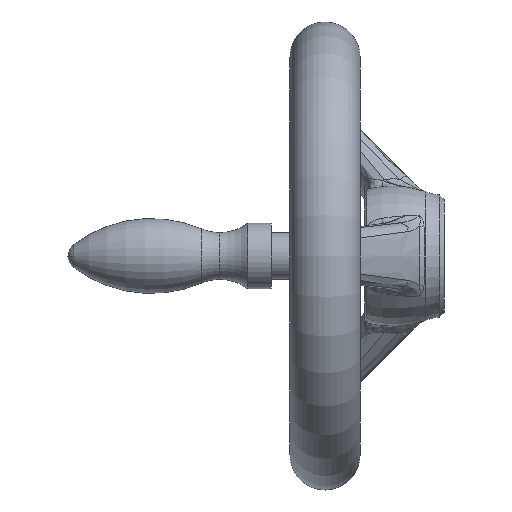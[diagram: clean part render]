
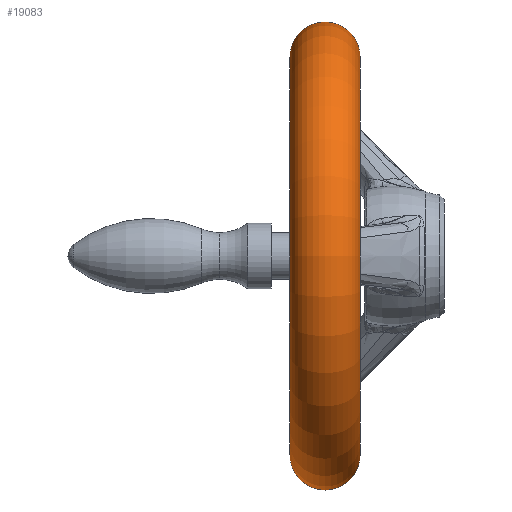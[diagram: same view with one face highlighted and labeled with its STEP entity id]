
A CAD part, left-side view. The second image highlights one B-rep face of the part: STEP entity #19083.
In plain terms, the highlighted toroidal (fillet/blend) face has major radius 42.5 mm and minor radius 7.5 mm.
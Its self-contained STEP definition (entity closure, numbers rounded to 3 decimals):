
#5132 = CARTESIAN_POINT ( 'NONE',  ( 0., 18., -42.5 ) ) ;
#5182 = CARTESIAN_POINT ( 'NONE',  ( 0., 18., 42.5 ) ) ;
#5239 = AXIS2_PLACEMENT_3D ( 'NONE', #5295, #5294, #5283 ) ;
#5243 = CIRCLE ( 'NONE', #5239, 42.5 ) ;
#5283 = DIRECTION ( 'NONE',  ( 0., 0., -1. ) ) ;
#5294 = DIRECTION ( 'NONE',  ( 0., -1., 0. ) ) ;
#5295 = CARTESIAN_POINT ( 'NONE',  ( 0., 18., 0. ) ) ;
#5327 = AXIS2_PLACEMENT_3D ( 'NONE', #5373, #5374, #5369 ) ;
#5328 = CIRCLE ( 'NONE', #5336, 7.5 ) ;
#5336 = AXIS2_PLACEMENT_3D ( 'NONE', #5378, #5377, #5376 ) ;
#5369 = DIRECTION ( 'NONE',  ( 0., 0., -1. ) ) ;
#5373 = CARTESIAN_POINT ( 'NONE',  ( 0., 25.5, 42.5 ) ) ;
#5374 = DIRECTION ( 'NONE',  ( 1., 0., 0. ) ) ;
#5376 = DIRECTION ( 'NONE',  ( 0., 0., 1. ) ) ;
#5377 = DIRECTION ( 'NONE',  ( -1., 0., 0. ) ) ;
#5378 = CARTESIAN_POINT ( 'NONE',  ( 0., 25.5, -42.5 ) ) ;
#5379 = CIRCLE ( 'NONE', #5327, 7.5 ) ;
#7737 = VERTEX_POINT ( 'NONE', #5182 ) ;
#7782 = VERTEX_POINT ( 'NONE', #5132 ) ;
#7852 = EDGE_CURVE ( 'NONE', #7737, #7782, #5243, .T. ) ;
#8105 = EDGE_CURVE ( 'NONE', #23261, #7782, #5328, .T. ) ;
#8119 = EDGE_CURVE ( 'NONE', #23169, #7737, #5379, .T. ) ;
#14062 = TOROIDAL_SURFACE ( 'NONE', #14107, 42.5, 7.5 ) ;
#14106 = DIRECTION ( 'NONE',  ( 0., 0., -1. ) ) ;
#14107 = AXIS2_PLACEMENT_3D ( 'NONE', #14108, #14111, #14106 ) ;
#14108 = CARTESIAN_POINT ( 'NONE',  ( 0., 25.5, 0. ) ) ;
#14110 = FACE_OUTER_BOUND ( 'NONE', #19043, .T. ) ;
#14111 = DIRECTION ( 'NONE',  ( 0., -1., 0. ) ) ;
#19043 = EDGE_LOOP ( 'NONE', ( #19050, #19064, #19085, #19072 ) ) ;
#19050 = ORIENTED_EDGE ( 'NONE', *, *, #8119, .F. ) ;
#19064 = ORIENTED_EDGE ( 'NONE', *, *, #23211, .T. ) ;
#19072 = ORIENTED_EDGE ( 'NONE', *, *, #7852, .F. ) ;
#19083 = ADVANCED_FACE ( 'NONE', ( #14110 ), #14062, .T. ) ;
#19085 = ORIENTED_EDGE ( 'NONE', *, *, #8105, .T. ) ;
#22504 = CARTESIAN_POINT ( 'NONE',  ( 0., 33., 42.5 ) ) ;
#22556 = DIRECTION ( 'NONE',  ( 0., 0., -1. ) ) ;
#22557 = DIRECTION ( 'NONE',  ( 0., -1., 0. ) ) ;
#22558 = CARTESIAN_POINT ( 'NONE',  ( 0., 33., 0. ) ) ;
#22568 = CIRCLE ( 'NONE', #22569, 42.5 ) ;
#22569 = AXIS2_PLACEMENT_3D ( 'NONE', #22558, #22557, #22556 ) ;
#22590 = CARTESIAN_POINT ( 'NONE',  ( 0., 33., -42.5 ) ) ;
#23169 = VERTEX_POINT ( 'NONE', #22504 ) ;
#23211 = EDGE_CURVE ( 'NONE', #23169, #23261, #22568, .T. ) ;
#23261 = VERTEX_POINT ( 'NONE', #22590 ) ;
